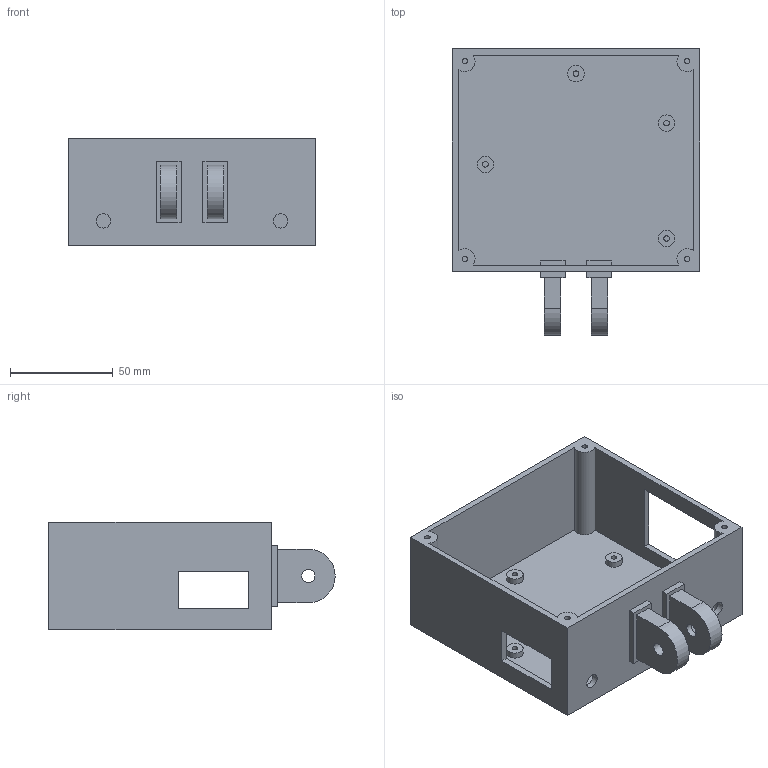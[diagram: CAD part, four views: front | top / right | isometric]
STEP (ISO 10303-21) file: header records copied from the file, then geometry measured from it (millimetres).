
FILE_DESCRIPTION(('Open CASCADE Model'),'2;1');
FILE_NAME('Open CASCADE Shape Model','2026-11-06T11:30:46',('Author'),( 'Open CASCADE'),'Open CASCADE STEP processor 7.8','Open CASCADE 7.8' ,'Unknown');
FILE_SCHEMA(('AUTOMOTIVE_DESIGN { 1 0 10303 214 1 1 1 1 }'));
Length unit declared in the file: millimetre
Products named in the file (1): Open CASCADE STEP translator 7.8 1
Bounding box: 120 x 139 x 52 mm (x, y, z)
Volume: 121122.1 mm3; surface area: 72190.1 mm2
Topology: 1 solids, 1 shells, 91 faces, 206 edges, 136 vertices
Faces by surface type: plane 69, cylinder 22
Full cylindrical faces by diameter (mm): 2.7 x8, 6.4 x2, 7 x2, 8 x4
Entity records: 5166 total; most frequent: CARTESIAN_POINT 935, DIRECTION 764, LINE 443, VECTOR 443, ORIENTED_EDGE 412, PCURVE 412, DEFINITIONAL_REPRESENTATION 412, EDGE_CURVE 206
